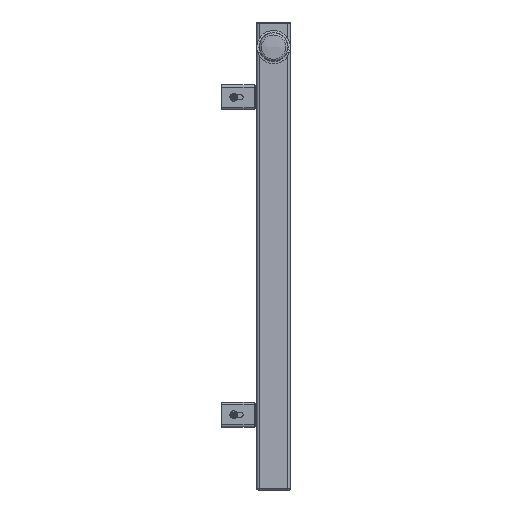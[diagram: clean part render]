
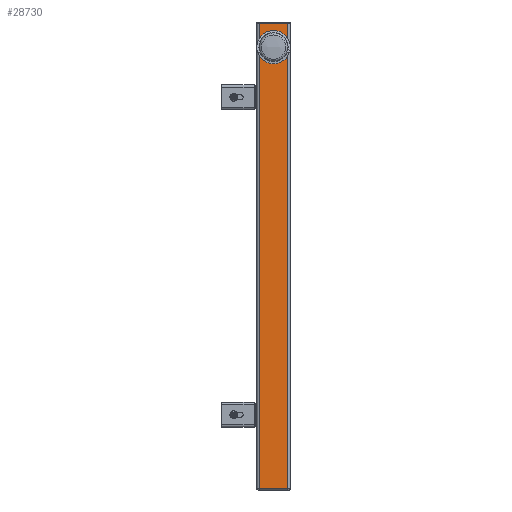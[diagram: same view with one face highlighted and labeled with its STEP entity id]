
A CAD part, left-side view. The second image highlights one B-rep face of the part: STEP entity #28730.
In plain terms, the highlighted planar face has unit normal (-1, 0, 0).
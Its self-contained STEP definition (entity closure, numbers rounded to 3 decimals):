
#28107=CARTESIAN_POINT('',(-40.,-17.0,1.5));
#28108=VERTEX_POINT('',#28107);
#28151=CARTESIAN_POINT('',(-40.,17.0,1.5));
#28152=VERTEX_POINT('',#28151);
#28169=CARTESIAN_POINT('',(-40.,-17.0,1.5));
#28170=DIRECTION('',(0.0,1.0,0.0));
#28171=VECTOR('',#28170,34.0);
#28172=LINE('',#28169,#28171);
#28173=EDGE_CURVE('',#28108,#28152,#28172,.T.);
#28677=CARTESIAN_POINT('',(-40.,17.0,558.5));
#28678=VERTEX_POINT('',#28677);
#28679=CARTESIAN_POINT('',(-40.,17.0,1.5));
#28680=DIRECTION('',(0.0,0.0,1.0));
#28681=VECTOR('',#28680,557.0);
#28682=LINE('',#28679,#28681);
#28683=EDGE_CURVE('',#28152,#28678,#28682,.T.);
#28696=CARTESIAN_POINT('',(-40.,-17.0,0.0));
#28697=DIRECTION('',(-1.0,0.0,0.0));
#28698=DIRECTION('',(0.0,0.0,1.0));
#28699=AXIS2_PLACEMENT_3D('',#28696,#28697,#28698);
#28700=PLANE('',#28699);
#28701=ORIENTED_EDGE('',*,*,#28173,.F.);
#28702=CARTESIAN_POINT('',(-40.,-17.0,558.5));
#28703=VERTEX_POINT('',#28702);
#28704=CARTESIAN_POINT('',(-40.,-17.0,1.5));
#28705=DIRECTION('',(0.0,0.0,1.0));
#28706=VECTOR('',#28705,557.0);
#28707=LINE('',#28704,#28706);
#28708=EDGE_CURVE('',#28108,#28703,#28707,.T.);
#28709=ORIENTED_EDGE('',*,*,#28708,.T.);
#28710=CARTESIAN_POINT('',(-40.,17.,558.5));
#28711=DIRECTION('',(0.0,-1.0,0.0));
#28712=VECTOR('',#28711,34.0);
#28713=LINE('',#28710,#28712);
#28714=EDGE_CURVE('',#28678,#28703,#28713,.T.);
#28715=ORIENTED_EDGE('',*,*,#28714,.F.);
#28716=ORIENTED_EDGE('',*,*,#28683,.F.);
#28717=EDGE_LOOP('',(#28701,#28709,#28715,#28716));
#28718=FACE_OUTER_BOUND('',#28717,.T.);
#28719=CARTESIAN_POINT('',(-40.,0.,545.0));
#28720=VERTEX_POINT('',#28719);
#28721=CARTESIAN_POINT('',(-40.,0.0,530.0));
#28722=DIRECTION('',(1.0,0.0,0.0));
#28723=DIRECTION('',(0.0,0.0,-1.0));
#28724=AXIS2_PLACEMENT_3D('',#28721,#28722,#28723);
#28725=CIRCLE('',#28724,15.0);
#28726=EDGE_CURVE('',#28720,#28720,#28725,.T.);
#28727=ORIENTED_EDGE('',*,*,#28726,.T.);
#28728=EDGE_LOOP('',(#28727));
#28729=FACE_BOUND('',#28728,.T.);
#28730=ADVANCED_FACE('',(#28718,#28729),#28700,.T.);
